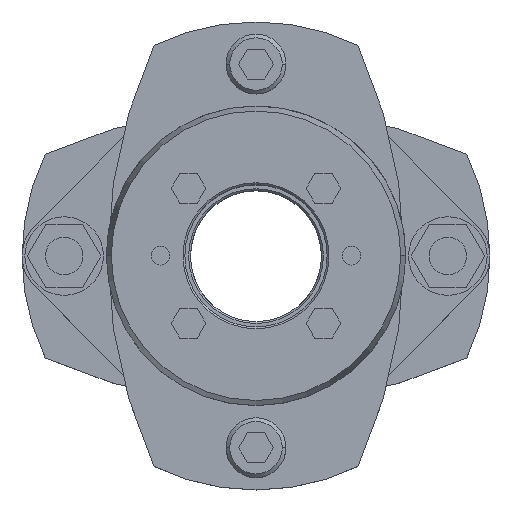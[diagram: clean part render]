
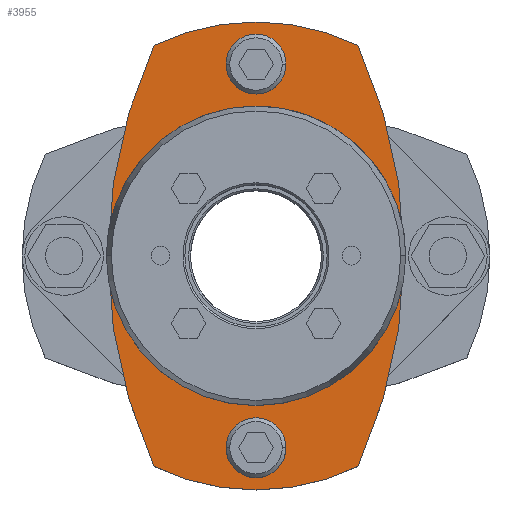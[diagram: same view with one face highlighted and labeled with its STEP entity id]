
A CAD part, top view. The second image highlights one B-rep face of the part: STEP entity #3955.
In plain terms, the highlighted planar face has unit normal (0, 0, 1).
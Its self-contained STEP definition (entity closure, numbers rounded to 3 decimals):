
#1387=CARTESIAN_POINT('',(-39.5,0.,19.0));
#1388=VERTEX_POINT('',#1387);
#1404=CARTESIAN_POINT('',(-27.217,-56.263,19.0));
#1405=VERTEX_POINT('',#1404);
#1412=CARTESIAN_POINT('',(95.5,0.,19.0));
#1413=DIRECTION('',(0.0,0.0,-1.0));
#1414=DIRECTION('',(-1.0,0.0,0.0));
#1415=AXIS2_PLACEMENT_3D('',#1412,#1413,#1414);
#1416=CIRCLE('',#1415,135.);
#1417=EDGE_CURVE('',#1405,#1388,#1416,.T.);
#1427=CARTESIAN_POINT('',(39.5,0.,19.0));
#1428=VERTEX_POINT('',#1427);
#1437=CARTESIAN_POINT('',(27.217,-56.263,19.0));
#1438=VERTEX_POINT('',#1437);
#1439=CARTESIAN_POINT('',(-95.5,0.,19.0));
#1440=DIRECTION('',(0.0,0.0,-1.0));
#1441=DIRECTION('',(-1.0,0.0,0.0));
#1442=AXIS2_PLACEMENT_3D('',#1439,#1440,#1441);
#1443=CIRCLE('',#1442,135.);
#1444=EDGE_CURVE('',#1428,#1438,#1443,.T.);
#1693=CARTESIAN_POINT('',(-30.5,0.,19.0));
#1694=VERTEX_POINT('',#1693);
#1744=CARTESIAN_POINT('',(30.5,0.,19.0));
#1745=VERTEX_POINT('',#1744);
#1752=CARTESIAN_POINT('',(0.,0.,19.0));
#1753=DIRECTION('',(0.0,0.0,-1.0));
#1754=DIRECTION('',(-1.0,0.0,0.0));
#1755=AXIS2_PLACEMENT_3D('',#1752,#1753,#1754);
#1756=CIRCLE('',#1755,30.5);
#1757=EDGE_CURVE('',#1694,#1745,#1756,.T.);
#1853=CARTESIAN_POINT('',(-8.,-51.25,19.0));
#1854=VERTEX_POINT('',#1853);
#1870=CARTESIAN_POINT('',(8.,-51.25,19.0));
#1871=VERTEX_POINT('',#1870);
#1878=CARTESIAN_POINT('',(0.,-51.25,19.0));
#1879=DIRECTION('',(0.0,0.0,-1.0));
#1880=DIRECTION('',(-1.0,0.0,0.0));
#1881=AXIS2_PLACEMENT_3D('',#1878,#1879,#1880);
#1882=CIRCLE('',#1881,8.0);
#1883=EDGE_CURVE('',#1854,#1871,#1882,.T.);
#1927=CARTESIAN_POINT('',(-8.,51.25,19.0));
#1928=VERTEX_POINT('',#1927);
#1944=CARTESIAN_POINT('',(8.,51.25,19.0));
#1945=VERTEX_POINT('',#1944);
#1952=CARTESIAN_POINT('',(0.,51.25,19.0));
#1953=DIRECTION('',(0.0,0.0,-1.0));
#1954=DIRECTION('',(-1.0,0.0,0.0));
#1955=AXIS2_PLACEMENT_3D('',#1952,#1953,#1954);
#1956=CIRCLE('',#1955,8.0);
#1957=EDGE_CURVE('',#1928,#1945,#1956,.T.);
#2496=CARTESIAN_POINT('',(0.,51.25,19.0));
#2497=DIRECTION('',(0.0,0.0,-1.0));
#2498=DIRECTION('',(-1.0,0.0,0.0));
#2499=AXIS2_PLACEMENT_3D('',#2496,#2497,#2498);
#2500=CIRCLE('',#2499,8.0);
#2501=EDGE_CURVE('',#1945,#1928,#2500,.T.);
#2556=CARTESIAN_POINT('',(0.,-51.25,19.0));
#2557=DIRECTION('',(0.0,0.0,-1.0));
#2558=DIRECTION('',(-1.0,0.0,0.0));
#2559=AXIS2_PLACEMENT_3D('',#2556,#2557,#2558);
#2560=CIRCLE('',#2559,8.0);
#2561=EDGE_CURVE('',#1871,#1854,#2560,.T.);
#3628=CARTESIAN_POINT('',(0.,0.,19.0));
#3629=DIRECTION('',(0.0,0.0,-1.0));
#3630=DIRECTION('',(-1.0,0.0,0.0));
#3631=AXIS2_PLACEMENT_3D('',#3628,#3629,#3630);
#3632=CIRCLE('',#3631,30.5);
#3633=EDGE_CURVE('',#1745,#1694,#3632,.T.);
#3849=CARTESIAN_POINT('',(-27.217,56.263,19.0));
#3850=VERTEX_POINT('',#3849);
#3851=CARTESIAN_POINT('',(27.217,56.263,19.0));
#3852=VERTEX_POINT('',#3851);
#3853=CARTESIAN_POINT('',(0.,0.,19.0));
#3854=DIRECTION('',(0.0,0.0,-1.0));
#3855=DIRECTION('',(-1.0,0.0,0.0));
#3856=AXIS2_PLACEMENT_3D('',#3853,#3854,#3855);
#3857=CIRCLE('',#3856,62.5);
#3858=EDGE_CURVE('',#3850,#3852,#3857,.T.);
#3884=CARTESIAN_POINT('',(-95.5,0.,19.0));
#3885=DIRECTION('',(0.0,0.0,-1.0));
#3886=DIRECTION('',(-1.0,0.0,0.0));
#3887=AXIS2_PLACEMENT_3D('',#3884,#3885,#3886);
#3888=CIRCLE('',#3887,135.);
#3889=EDGE_CURVE('',#3852,#1428,#3888,.T.);
#3899=CARTESIAN_POINT('',(0.,0.0,19.0));
#3900=DIRECTION('',(0.0,0.0,-1.0));
#3901=DIRECTION('',(-1.0,0.0,0.0));
#3902=AXIS2_PLACEMENT_3D('',#3899,#3900,#3901);
#3903=CIRCLE('',#3902,62.5);
#3904=EDGE_CURVE('',#1438,#1405,#3903,.T.);
#3918=CARTESIAN_POINT('',(95.5,0.,19.0));
#3919=DIRECTION('',(0.0,0.0,-1.0));
#3920=DIRECTION('',(-1.0,0.0,0.0));
#3921=AXIS2_PLACEMENT_3D('',#3918,#3919,#3920);
#3922=CIRCLE('',#3921,135.);
#3923=EDGE_CURVE('',#1388,#3850,#3922,.T.);
#3930=CARTESIAN_POINT('',(0.,0.,19.0));
#3931=DIRECTION('',(0.0,0.0,1.0));
#3932=DIRECTION('',(-1.0,0.0,0.0));
#3933=AXIS2_PLACEMENT_3D('',#3930,#3931,#3932);
#3934=PLANE('',#3933);
#3935=ORIENTED_EDGE('',*,*,#3858,.F.);
#3936=ORIENTED_EDGE('',*,*,#3923,.F.);
#3937=ORIENTED_EDGE('',*,*,#1417,.F.);
#3938=ORIENTED_EDGE('',*,*,#3904,.F.);
#3939=ORIENTED_EDGE('',*,*,#1444,.F.);
#3940=ORIENTED_EDGE('',*,*,#3889,.F.);
#3941=EDGE_LOOP('',(#3935,#3936,#3937,#3938,#3939,#3940));
#3942=FACE_OUTER_BOUND('',#3941,.T.);
#3943=ORIENTED_EDGE('',*,*,#1883,.T.);
#3944=ORIENTED_EDGE('',*,*,#2561,.T.);
#3945=EDGE_LOOP('',(#3943,#3944));
#3946=FACE_BOUND('',#3945,.T.);
#3947=ORIENTED_EDGE('',*,*,#1957,.T.);
#3948=ORIENTED_EDGE('',*,*,#2501,.T.);
#3949=EDGE_LOOP('',(#3947,#3948));
#3950=FACE_BOUND('',#3949,.T.);
#3951=ORIENTED_EDGE('',*,*,#1757,.T.);
#3952=ORIENTED_EDGE('',*,*,#3633,.T.);
#3953=EDGE_LOOP('',(#3951,#3952));
#3954=FACE_BOUND('',#3953,.T.);
#3955=ADVANCED_FACE('',(#3942,#3946,#3950,#3954),#3934,.T.);
